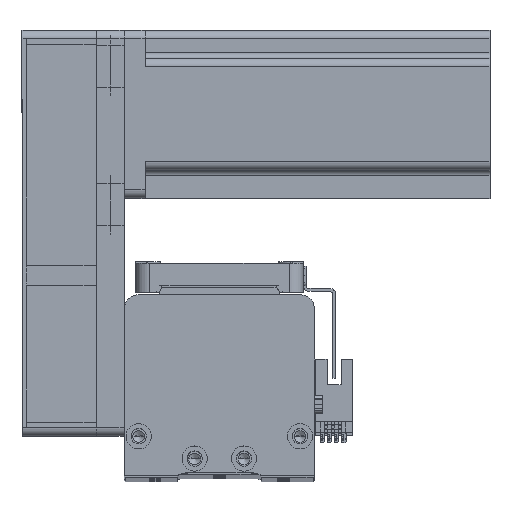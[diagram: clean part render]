
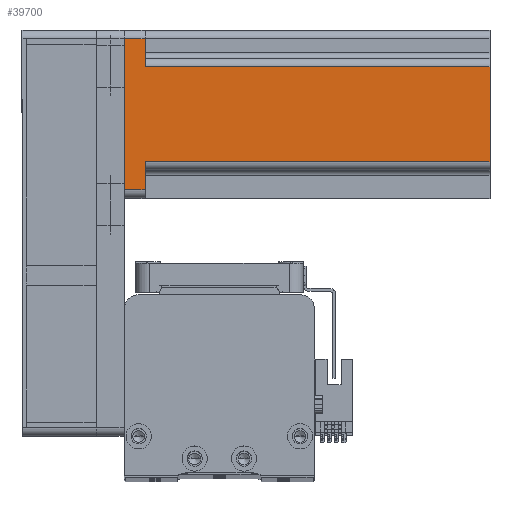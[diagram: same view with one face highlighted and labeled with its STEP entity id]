
A CAD part, top view. The second image highlights one B-rep face of the part: STEP entity #39700.
In plain terms, the highlighted planar face has unit normal (0, 0, 1) as drawn and (0, 1, 0) by its records, which use the part's own axes.
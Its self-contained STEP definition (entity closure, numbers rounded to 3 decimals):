
#241 = EDGE_CURVE ( 'NONE', #42168, #23121, #38334, .T. ) ;
#1460 = DIRECTION ( 'NONE',  ( 0., 0., 1. ) ) ;
#3270 = DIRECTION ( 'NONE',  ( -1., 0., 0. ) ) ;
#3619 = CARTESIAN_POINT ( 'NONE',  ( 27., 30., 0. ) ) ;
#4166 = CARTESIAN_POINT ( 'NONE',  ( 30., 30., 0. ) ) ;
#4225 = VECTOR ( 'NONE', #38195, 1000. ) ;
#4877 = CARTESIAN_POINT ( 'NONE',  ( -20., 30., 7.5 ) ) ;
#5181 = CARTESIAN_POINT ( 'NONE',  ( -27., 30., 130.7 ) ) ;
#5382 = LINE ( 'NONE', #5181, #31417 ) ;
#7881 = VECTOR ( 'NONE', #13834, 1000. ) ;
#8247 = CARTESIAN_POINT ( 'NONE',  ( -27., 30., 7.5 ) ) ;
#8603 = DIRECTION ( 'NONE',  ( 1., 0., 0. ) ) ;
#9399 = VECTOR ( 'NONE', #22253, 1000. ) ;
#10591 = LINE ( 'NONE', #4166, #9399 ) ;
#10714 = EDGE_CURVE ( 'NONE', #13871, #43548, #22951, .T. ) ;
#13023 = LINE ( 'NONE', #4877, #21695 ) ;
#13110 = ORIENTED_EDGE ( 'NONE', *, *, #10714, .T. ) ;
#13187 = ORIENTED_EDGE ( 'NONE', *, *, #21440, .T. ) ;
#13609 = ORIENTED_EDGE ( 'NONE', *, *, #32224, .T. ) ;
#13803 = PLANE ( 'NONE',  #29095 ) ;
#13834 = DIRECTION ( 'NONE',  ( -1., 0., 0. ) ) ;
#13871 = VERTEX_POINT ( 'NONE', #27269 ) ;
#13897 = VECTOR ( 'NONE', #3270, 1000. ) ;
#13974 = DIRECTION ( 'NONE',  ( 0., -1., 0. ) ) ;
#14083 = LINE ( 'NONE', #45583, #4225 ) ;
#15946 = EDGE_CURVE ( 'NONE', #42168, #43548, #46009, .T. ) ;
#18260 = CARTESIAN_POINT ( 'NONE',  ( -27., 30., 0. ) ) ;
#18265 = VERTEX_POINT ( 'NONE', #21042 ) ;
#21042 = CARTESIAN_POINT ( 'NONE',  ( -17., 30., 130.7 ) ) ;
#21440 = EDGE_CURVE ( 'NONE', #35751, #18265, #14083, .T. ) ;
#21695 = VECTOR ( 'NONE', #8603, 1000. ) ;
#21862 = ORIENTED_EDGE ( 'NONE', *, *, #241, .T. ) ;
#22253 = DIRECTION ( 'NONE',  ( -1., 0., 0. ) ) ;
#22951 = LINE ( 'NONE', #38861, #41471 ) ;
#23121 = VERTEX_POINT ( 'NONE', #3619 ) ;
#23404 = CARTESIAN_POINT ( 'NONE',  ( -17., 30., 7.5 ) ) ;
#24331 = DIRECTION ( 'NONE',  ( 0., 0., -1. ) ) ;
#24443 = CARTESIAN_POINT ( 'NONE',  ( 17., 30., 7.5 ) ) ;
#27269 = CARTESIAN_POINT ( 'NONE',  ( 17., 30., 130.7 ) ) ;
#27363 = VECTOR ( 'NONE', #24331, 1000. ) ;
#28628 = EDGE_LOOP ( 'NONE', ( #13609, #13187, #46995, #13110, #31376, #21862, #37064, #43683 ) ) ;
#29095 = AXIS2_PLACEMENT_3D ( 'NONE', #36113, #13974, #39819 ) ;
#31376 = ORIENTED_EDGE ( 'NONE', *, *, #15946, .F. ) ;
#31417 = VECTOR ( 'NONE', #1460, 1000. ) ;
#32025 = VERTEX_POINT ( 'NONE', #18260 ) ;
#32224 = EDGE_CURVE ( 'NONE', #43887, #35751, #13023, .T. ) ;
#34088 = CARTESIAN_POINT ( 'NONE',  ( 27., 30., 7.5 ) ) ;
#34632 = FACE_OUTER_BOUND ( 'NONE', #28628, .T. ) ;
#34967 = EDGE_CURVE ( 'NONE', #23121, #32025, #10591, .T. ) ;
#35751 = VERTEX_POINT ( 'NONE', #23404 ) ;
#36113 = CARTESIAN_POINT ( 'NONE',  ( 30., 30., 130.7 ) ) ;
#37064 = ORIENTED_EDGE ( 'NONE', *, *, #34967, .T. ) ;
#38195 = DIRECTION ( 'NONE',  ( 0., 0., 1. ) ) ;
#38334 = LINE ( 'NONE', #42746, #27363 ) ;
#38509 = EDGE_CURVE ( 'NONE', #32025, #43887, #5382, .T. ) ;
#38861 = CARTESIAN_POINT ( 'NONE',  ( 17., 30., 130.7 ) ) ;
#39691 = CARTESIAN_POINT ( 'NONE',  ( 20., 30., 7.5 ) ) ;
#39700 = ADVANCED_FACE ( 'NONE', ( #34632 ), #13803, .F. ) ;
#39819 = DIRECTION ( 'NONE',  ( 1., 0., 0. ) ) ;
#41471 = VECTOR ( 'NONE', #42558, 1000. ) ;
#42168 = VERTEX_POINT ( 'NONE', #34088 ) ;
#42558 = DIRECTION ( 'NONE',  ( 0., 0., -1. ) ) ;
#42746 = CARTESIAN_POINT ( 'NONE',  ( 27., 30., 130.7 ) ) ;
#43370 = LINE ( 'NONE', #47507, #13897 ) ;
#43548 = VERTEX_POINT ( 'NONE', #24443 ) ;
#43683 = ORIENTED_EDGE ( 'NONE', *, *, #38509, .T. ) ;
#43684 = EDGE_CURVE ( 'NONE', #13871, #18265, #43370, .T. ) ;
#43887 = VERTEX_POINT ( 'NONE', #8247 ) ;
#45583 = CARTESIAN_POINT ( 'NONE',  ( -17., 30., 130.7 ) ) ;
#46009 = LINE ( 'NONE', #39691, #7881 ) ;
#46995 = ORIENTED_EDGE ( 'NONE', *, *, #43684, .F. ) ;
#47507 = CARTESIAN_POINT ( 'NONE',  ( 30., 30., 130.7 ) ) ;
